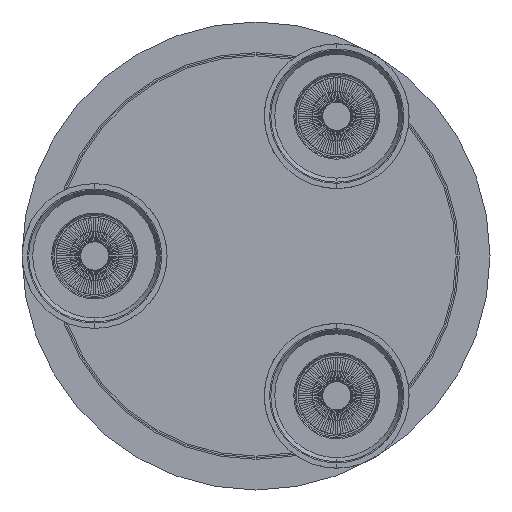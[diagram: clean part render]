
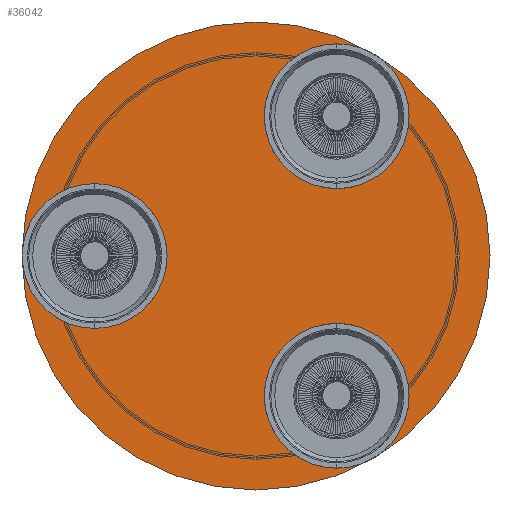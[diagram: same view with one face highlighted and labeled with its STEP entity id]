
A CAD part, front view. The second image highlights one B-rep face of the part: STEP entity #36042.
In plain terms, the highlighted planar face has unit normal (0, -1, 0).
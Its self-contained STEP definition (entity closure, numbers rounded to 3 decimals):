
#3 = FACE_BOUND ( 'NONE', #19087, .T. ) ;
#169 = CARTESIAN_POINT ( 'NONE',  ( 0., -1., -145. ) ) ;
#236 = FACE_OUTER_BOUND ( 'NONE', #30496, .T. ) ;
#1398 = CARTESIAN_POINT ( 'NONE',  ( -47.966, -1., 91.279 ) ) ;
#1503 = CARTESIAN_POINT ( 'NONE',  ( 103.033, -1., 4.1 ) ) ;
#1616 = ORIENTED_EDGE ( 'NONE', *, *, #30433, .F. ) ;
#1697 = DIRECTION ( 'NONE',  ( 0., 0., -1. ) ) ;
#1701 = CARTESIAN_POINT ( 'NONE',  ( -52.034, -1., 81.926 ) ) ;
#1917 = CARTESIAN_POINT ( 'NONE',  ( -50., -1., 86.603 ) ) ;
#2216 = AXIS2_PLACEMENT_3D ( 'NONE', #32350, #20914, #38799 ) ;
#2441 = CIRCLE ( 'NONE', #28777, 5.1 ) ;
#2799 = FACE_BOUND ( 'NONE', #9723, .T. ) ;
#2841 = LINE ( 'NONE', #30411, #38480 ) ;
#2891 = CARTESIAN_POINT ( 'NONE',  ( 0., -1., 0. ) ) ;
#3153 = CARTESIAN_POINT ( 'NONE',  ( -52.034, -1., -81.926 ) ) ;
#4357 = EDGE_CURVE ( 'NONE', #34192, #39236, #44964, .T. ) ;
#5167 = CIRCLE ( 'NONE', #2216, 5.1 ) ;
#5187 = CARTESIAN_POINT ( 'NONE',  ( 103.033, -1., -4.1 ) ) ;
#5228 = AXIS2_PLACEMENT_3D ( 'NONE', #45064, #10609, #24405 ) ;
#6091 = AXIS2_PLACEMENT_3D ( 'NONE', #26078, #17123, #23794 ) ;
#6694 = EDGE_CURVE ( 'NONE', #13343, #34192, #15645, .T. ) ;
#6949 = DIRECTION ( 'NONE',  ( -0.866, 0., 0.5 ) ) ;
#8305 = DIRECTION ( 'NONE',  ( 1., 0., 0. ) ) ;
#8506 = CARTESIAN_POINT ( 'NONE',  ( -55.067, -1., 87.179 ) ) ;
#8659 = EDGE_LOOP ( 'NONE', ( #21852, #1616, #18100, #15728 ) ) ;
#9481 = VERTEX_POINT ( 'NONE', #1398 ) ;
#9608 = EDGE_CURVE ( 'NONE', #12755, #22780, #2441, .T. ) ;
#9723 = EDGE_LOOP ( 'NONE', ( #24527, #23699, #39728, #17167 ) ) ;
#9774 = CARTESIAN_POINT ( 'NONE',  ( -55.067, -1., -87.179 ) ) ;
#9834 = CARTESIAN_POINT ( 'NONE',  ( 0., -1., 145. ) ) ;
#10329 = EDGE_CURVE ( 'NONE', #30187, #9481, #23978, .T. ) ;
#10609 = DIRECTION ( 'NONE',  ( 0., 1., 0. ) ) ;
#10767 = CARTESIAN_POINT ( 'NONE',  ( -47.966, -1., -91.279 ) ) ;
#11533 = EDGE_CURVE ( 'NONE', #35815, #35763, #33155, .T. ) ;
#12755 = VERTEX_POINT ( 'NONE', #5187 ) ;
#12813 = CARTESIAN_POINT ( 'NONE',  ( -44.933, -1., 86.026 ) ) ;
#12962 = DIRECTION ( 'NONE',  ( 0., 1., 0. ) ) ;
#13343 = VERTEX_POINT ( 'NONE', #34998 ) ;
#13518 = DIRECTION ( 'NONE',  ( -0.5, 0., -0.866 ) ) ;
#13583 = CARTESIAN_POINT ( 'NONE',  ( 100., -1., 0. ) ) ;
#13604 = ORIENTED_EDGE ( 'NONE', *, *, #26934, .F. ) ;
#14153 = DIRECTION ( 'NONE',  ( 0., 0., 1. ) ) ;
#14513 = ORIENTED_EDGE ( 'NONE', *, *, #24350, .F. ) ;
#15077 = EDGE_CURVE ( 'NONE', #36402, #13343, #28573, .T. ) ;
#15645 = CIRCLE ( 'NONE', #41326, 5.1 ) ;
#15728 = ORIENTED_EDGE ( 'NONE', *, *, #44057, .F. ) ;
#16202 = ORIENTED_EDGE ( 'NONE', *, *, #41080, .F. ) ;
#17123 = DIRECTION ( 'NONE',  ( 0., -1., 0. ) ) ;
#17167 = ORIENTED_EDGE ( 'NONE', *, *, #6694, .F. ) ;
#17177 = VECTOR ( 'NONE', #13518, 1000. ) ;
#18100 = ORIENTED_EDGE ( 'NONE', *, *, #10329, .F. ) ;
#19087 = EDGE_LOOP ( 'NONE', ( #13604, #23893, #16202, #43643 ) ) ;
#19888 = AXIS2_PLACEMENT_3D ( 'NONE', #2891, #44934, #14153 ) ;
#20179 = CARTESIAN_POINT ( 'NONE',  ( -44.933, -1., -86.026 ) ) ;
#20393 = LINE ( 'NONE', #41505, #42384 ) ;
#20714 = DIRECTION ( 'NONE',  ( 0., 0., -1. ) ) ;
#20781 = CARTESIAN_POINT ( 'NONE',  ( -44.933, -1., 86.026 ) ) ;
#20914 = DIRECTION ( 'NONE',  ( 0., -1., 0. ) ) ;
#21852 = ORIENTED_EDGE ( 'NONE', *, *, #42533, .F. ) ;
#22371 = CARTESIAN_POINT ( 'NONE',  ( 96.967, -1., -4.1 ) ) ;
#22780 = VERTEX_POINT ( 'NONE', #1503 ) ;
#23545 = DIRECTION ( 'NONE',  ( 0., -1., 0. ) ) ;
#23699 = ORIENTED_EDGE ( 'NONE', *, *, #39130, .F. ) ;
#23794 = DIRECTION ( 'NONE',  ( -0.866, 0., 0.5 ) ) ;
#23893 = ORIENTED_EDGE ( 'NONE', *, *, #9608, .F. ) ;
#23978 = LINE ( 'NONE', #20781, #27357 ) ;
#24207 = CARTESIAN_POINT ( 'NONE',  ( -50., -1., -86.603 ) ) ;
#24277 = CIRCLE ( 'NONE', #34554, 5.1 ) ;
#24350 = EDGE_CURVE ( 'NONE', #26728, #27947, #27679, .T. ) ;
#24405 = DIRECTION ( 'NONE',  ( 0., 0., 1. ) ) ;
#24527 = ORIENTED_EDGE ( 'NONE', *, *, #15077, .F. ) ;
#25345 = CARTESIAN_POINT ( 'NONE',  ( 96.967, -1., 4.1 ) ) ;
#26078 = CARTESIAN_POINT ( 'NONE',  ( -50., -1., -86.603 ) ) ;
#26728 = VERTEX_POINT ( 'NONE', #169 ) ;
#26745 = CARTESIAN_POINT ( 'NONE',  ( 0., -1., 0. ) ) ;
#26934 = EDGE_CURVE ( 'NONE', #22780, #35815, #20393, .T. ) ;
#27357 = VECTOR ( 'NONE', #27872, 1000. ) ;
#27589 = DIRECTION ( 'NONE',  ( 0., -1., 0. ) ) ;
#27679 = CIRCLE ( 'NONE', #39414, 145. ) ;
#27872 = DIRECTION ( 'NONE',  ( -0.5, 0., 0.866 ) ) ;
#27947 = VERTEX_POINT ( 'NONE', #9834 ) ;
#28573 = LINE ( 'NONE', #20179, #37535 ) ;
#28777 = AXIS2_PLACEMENT_3D ( 'NONE', #13583, #27589, #20714 ) ;
#30098 = CARTESIAN_POINT ( 'NONE',  ( 96.967, -1., -4.1 ) ) ;
#30187 = VERTEX_POINT ( 'NONE', #12813 ) ;
#30403 = DIRECTION ( 'NONE',  ( 0., 0., 1. ) ) ;
#30411 = CARTESIAN_POINT ( 'NONE',  ( -52.034, -1., 81.926 ) ) ;
#30433 = EDGE_CURVE ( 'NONE', #9481, #38472, #24277, .T. ) ;
#30496 = EDGE_LOOP ( 'NONE', ( #37803, #14513 ) ) ;
#30615 = DIRECTION ( 'NONE',  ( 0., -1., 0. ) ) ;
#30867 = DIRECTION ( 'NONE',  ( 0.5, 0., -0.866 ) ) ;
#31016 = CIRCLE ( 'NONE', #6091, 5.1 ) ;
#32350 = CARTESIAN_POINT ( 'NONE',  ( -50., -1., 86.603 ) ) ;
#33155 = CIRCLE ( 'NONE', #38274, 5.1 ) ;
#33879 = DIRECTION ( 'NONE',  ( 0.866, 0., 0.5 ) ) ;
#33970 = DIRECTION ( 'NONE',  ( 0.5, 0., 0.866 ) ) ;
#34192 = VERTEX_POINT ( 'NONE', #36255 ) ;
#34454 = EDGE_CURVE ( 'NONE', #27947, #26728, #36119, .T. ) ;
#34554 = AXIS2_PLACEMENT_3D ( 'NONE', #1917, #23545, #33879 ) ;
#34998 = CARTESIAN_POINT ( 'NONE',  ( -44.933, -1., -86.026 ) ) ;
#35488 = VECTOR ( 'NONE', #8305, 1000. ) ;
#35763 = VERTEX_POINT ( 'NONE', #22371 ) ;
#35815 = VERTEX_POINT ( 'NONE', #25345 ) ;
#36042 = ADVANCED_FACE ( 'NONE', ( #2799, #38629, #3, #236 ), #42076, .F. ) ;
#36119 = CIRCLE ( 'NONE', #19888, 145. ) ;
#36255 = CARTESIAN_POINT ( 'NONE',  ( -52.034, -1., -81.926 ) ) ;
#36402 = VERTEX_POINT ( 'NONE', #10767 ) ;
#37167 = DIRECTION ( 'NONE',  ( -1., 0., 0. ) ) ;
#37535 = VECTOR ( 'NONE', #33970, 1000. ) ;
#37803 = ORIENTED_EDGE ( 'NONE', *, *, #34454, .F. ) ;
#38274 = AXIS2_PLACEMENT_3D ( 'NONE', #43062, #43518, #1697 ) ;
#38472 = VERTEX_POINT ( 'NONE', #8506 ) ;
#38480 = VECTOR ( 'NONE', #30867, 1000. ) ;
#38629 = FACE_BOUND ( 'NONE', #8659, .T. ) ;
#38799 = DIRECTION ( 'NONE',  ( 0.866, 0., 0.5 ) ) ;
#39130 = EDGE_CURVE ( 'NONE', #39236, #36402, #31016, .T. ) ;
#39236 = VERTEX_POINT ( 'NONE', #9774 ) ;
#39414 = AXIS2_PLACEMENT_3D ( 'NONE', #26745, #12962, #30403 ) ;
#39728 = ORIENTED_EDGE ( 'NONE', *, *, #4357, .F. ) ;
#41080 = EDGE_CURVE ( 'NONE', #35763, #12755, #43889, .T. ) ;
#41326 = AXIS2_PLACEMENT_3D ( 'NONE', #24207, #30615, #6949 ) ;
#41505 = CARTESIAN_POINT ( 'NONE',  ( 96.967, -1., 4.1 ) ) ;
#42076 = PLANE ( 'NONE',  #5228 ) ;
#42238 = VERTEX_POINT ( 'NONE', #1701 ) ;
#42384 = VECTOR ( 'NONE', #37167, 1000. ) ;
#42533 = EDGE_CURVE ( 'NONE', #38472, #42238, #2841, .T. ) ;
#43062 = CARTESIAN_POINT ( 'NONE',  ( 100., -1., 0. ) ) ;
#43518 = DIRECTION ( 'NONE',  ( 0., -1., 0. ) ) ;
#43643 = ORIENTED_EDGE ( 'NONE', *, *, #11533, .F. ) ;
#43889 = LINE ( 'NONE', #30098, #35488 ) ;
#44057 = EDGE_CURVE ( 'NONE', #42238, #30187, #5167, .T. ) ;
#44934 = DIRECTION ( 'NONE',  ( 0., 1., 0. ) ) ;
#44964 = LINE ( 'NONE', #3153, #17177 ) ;
#45064 = CARTESIAN_POINT ( 'NONE',  ( 0., -1., 0. ) ) ;
